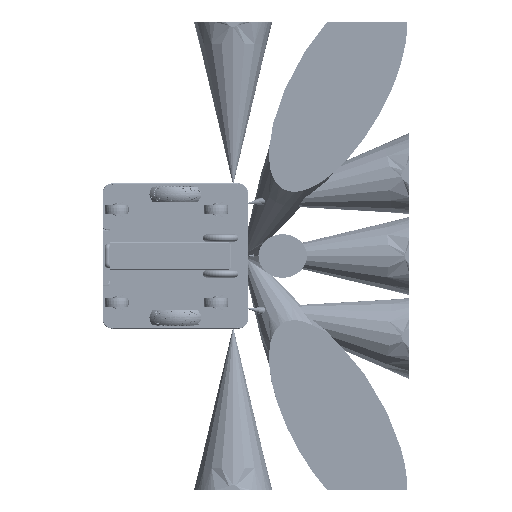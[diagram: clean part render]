
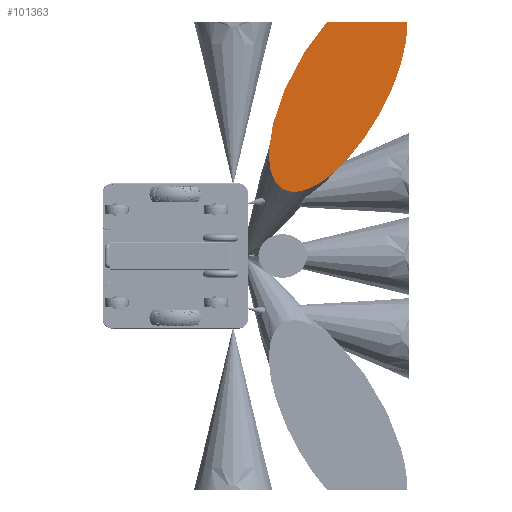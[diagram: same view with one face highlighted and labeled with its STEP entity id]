
A CAD part, front view. The second image highlights one B-rep face of the part: STEP entity #101363.
In plain terms, the highlighted planar face has unit normal (0, -1, 0).
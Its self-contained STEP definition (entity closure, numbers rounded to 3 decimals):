
#27101 = CARTESIAN_POINT ( 'NONE',  ( 268.213, 0., 389.655 ) ) ;
#31342 =( BOUNDED_CURVE ( )  B_SPLINE_CURVE ( 3, ( #98484, #146074, #27101, #119375 ),
 .UNSPECIFIED., .F., .F. ) 
 B_SPLINE_CURVE_WITH_KNOTS ( ( 4, 4 ),
 ( 1.077, 2.692 ),
 .UNSPECIFIED. ) 
 CURVE ( )  GEOMETRIC_REPRESENTATION_ITEM ( )  RATIONAL_B_SPLINE_CURVE ( ( 1., 0.794, 0.794, 1. ) ) 
 REPRESENTATION_ITEM ( '' )  );
#35394 = CARTESIAN_POINT ( 'NONE',  ( 294.587, 0., 269.139 ) ) ;
#35945 = CARTESIAN_POINT ( 'NONE',  ( 470.177, 0., 725. ) ) ;
#45830 = VERTEX_POINT ( 'NONE', #207192 ) ;
#51193 = PLANE ( 'NONE',  #293650 ) ;
#73315 = VERTEX_POINT ( 'NONE', #35945 ) ;
#73540 =( BOUNDED_CURVE ( )  B_SPLINE_CURVE ( 3, ( #232341, #94096, #275495, #141685 ),
 .UNSPECIFIED., .F., .F. ) 
 B_SPLINE_CURVE_WITH_KNOTS ( ( 4, 4 ),
 ( 5.204, 5.664 ),
 .UNSPECIFIED. ) 
 CURVE ( )  GEOMETRIC_REPRESENTATION_ITEM ( )  RATIONAL_B_SPLINE_CURVE ( ( 1., 0.982, 0.982, 1. ) ) 
 REPRESENTATION_ITEM ( '' )  );
#78561 = CARTESIAN_POINT ( 'NONE',  ( 595.729, 0., 238.676 ) ) ;
#89160 = ORIENTED_EDGE ( 'NONE', *, *, #102559, .T. ) ;
#89772 = CARTESIAN_POINT ( 'NONE',  ( 699.596, 0., 597.733 ) ) ;
#94096 = CARTESIAN_POINT ( 'NONE',  ( 713.286, 0., 645.059 ) ) ;
#98484 = CARTESIAN_POINT ( 'NONE',  ( 470.177, 0., 725. ) ) ;
#100905 = CARTESIAN_POINT ( 'NONE',  ( 345.656, 0., 35.785 ) ) ;
#101363 = ADVANCED_FACE ( 'NONE', ( #277243 ), #51193, .F. ) ;
#102559 = EDGE_CURVE ( 'NONE', #73315, #245810, #31342, .T. ) ;
#119375 = CARTESIAN_POINT ( 'NONE',  ( 294.587, 0., 269.139 ) ) ;
#123604 =( BOUNDED_CURVE ( )  B_SPLINE_CURVE ( 3, ( #35394, #100905, #78561, #234751 ),
 .UNSPECIFIED., .F., .T. ) 
 B_SPLINE_CURVE_WITH_KNOTS ( ( 4, 4 ),
 ( 2.692, 5.204 ),
 .UNSPECIFIED. ) 
 CURVE ( )  GEOMETRIC_REPRESENTATION_ITEM ( )  RATIONAL_B_SPLINE_CURVE ( ( 1., 0.54, 0.54, 1. ) ) 
 REPRESENTATION_ITEM ( '' )  );
#141685 = CARTESIAN_POINT ( 'NONE',  ( 718.578, 0., 725. ) ) ;
#143449 = DIRECTION ( 'NONE',  ( 1., 0., 0. ) ) ;
#146074 = CARTESIAN_POINT ( 'NONE',  ( 341.903, 0., 580.966 ) ) ;
#170018 = VERTEX_POINT ( 'NONE', #89772 ) ;
#207192 = CARTESIAN_POINT ( 'NONE',  ( 718.578, 0., 725. ) ) ;
#210346 = DIRECTION ( 'NONE',  ( 0., 1., 0. ) ) ;
#213514 = ORIENTED_EDGE ( 'NONE', *, *, #226661, .T. ) ;
#217860 = VECTOR ( 'NONE', #292141, 1000. ) ;
#226661 = EDGE_CURVE ( 'NONE', #170018, #45830, #73540, .T. ) ;
#226741 = CARTESIAN_POINT ( 'NONE',  ( 0., 0., 725. ) ) ;
#232341 = CARTESIAN_POINT ( 'NONE',  ( 699.596, 0., 597.733 ) ) ;
#234751 = CARTESIAN_POINT ( 'NONE',  ( 699.596, 0., 597.733 ) ) ;
#245810 = VERTEX_POINT ( 'NONE', #273144 ) ;
#255175 = ORIENTED_EDGE ( 'NONE', *, *, #290517, .T. ) ;
#258148 = EDGE_CURVE ( 'NONE', #45830, #73315, #293605, .T. ) ;
#259372 = CARTESIAN_POINT ( 'NONE',  ( 0., 0., 0. ) ) ;
#273143 = ORIENTED_EDGE ( 'NONE', *, *, #258148, .T. ) ;
#273144 = CARTESIAN_POINT ( 'NONE',  ( 294.587, 0., 269.139 ) ) ;
#275495 = CARTESIAN_POINT ( 'NONE',  ( 719.727, 0., 688.24 ) ) ;
#277243 = FACE_OUTER_BOUND ( 'NONE', #283763, .T. ) ;
#283763 = EDGE_LOOP ( 'NONE', ( #89160, #255175, #213514, #273143 ) ) ;
#290517 = EDGE_CURVE ( 'NONE', #245810, #170018, #123604, .T. ) ;
#292141 = DIRECTION ( 'NONE',  ( -1., 0., 0. ) ) ;
#293605 = LINE ( 'NONE', #226741, #217860 ) ;
#293650 = AXIS2_PLACEMENT_3D ( 'NONE', #259372, #210346, #143449 ) ;
